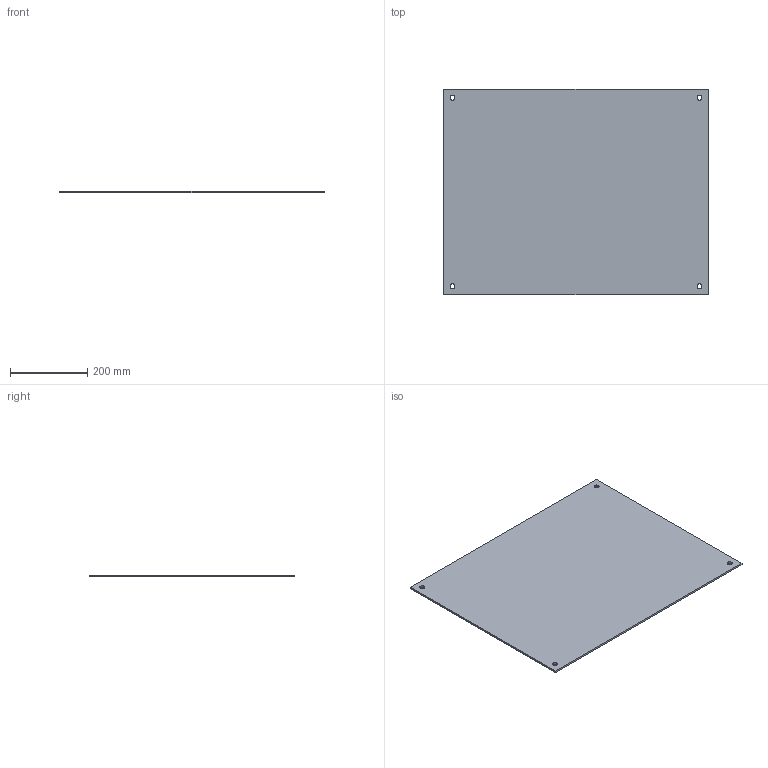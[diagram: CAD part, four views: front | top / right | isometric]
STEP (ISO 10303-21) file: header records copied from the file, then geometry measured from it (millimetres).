
FILE_DESCRIPTION((''),'1');
FILE_NAME('13','2001-04-18T',('jlue'),(''),'PRO/ENGINEER BY PARAMETRIC TECHNOLOGY CORPORATION, 9846','PRO/ENGINEER BY PARAMETRIC TECHNOLOGY CORPORATION, 9846','');
FILE_SCHEMA(('CONFIG_CONTROL_DESIGN'));
Length unit declared in the file: inch
Products named in the file (1): 13
Bounding box: 685.8 x 533.4 x 4.83 mm (x, y, z)
Surface area: 743135.9 mm2 (no closed solid volume)
Topology: 0 solids, 0 shells, 14 faces, 76 edges, 80 vertices
Faces by surface type: cylinder 8, plane 6
Entity records: 440 total; most frequent: DIRECTION 84, COMPOSITE_CURVE_SEGMENT 72, CARTESIAN_POINT 54, TRIMMED_CURVE 40, AXIS2_PLACEMENT_3D 30, VECTOR 24, LINE 24, CIRCLE 16
